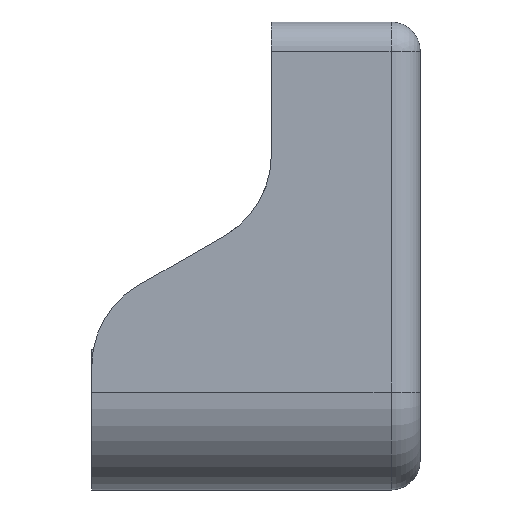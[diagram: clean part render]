
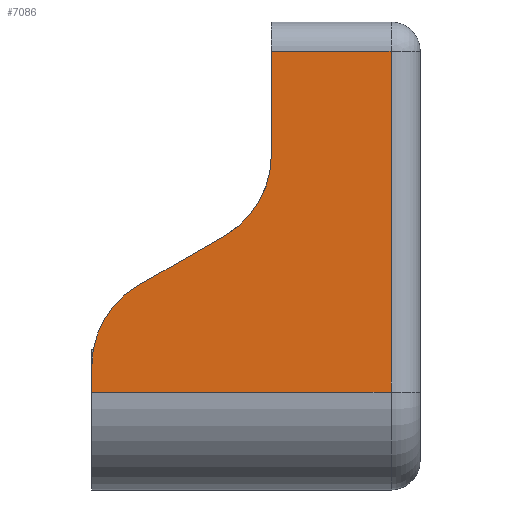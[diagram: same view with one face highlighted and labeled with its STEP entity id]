
A CAD part, left-side view. The second image highlights one B-rep face of the part: STEP entity #7086.
In plain terms, the highlighted planar face has unit normal (-1, 0, 0).
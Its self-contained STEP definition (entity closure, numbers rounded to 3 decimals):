
#9 = EDGE_CURVE ( 'NONE', #664, #5637, #3936, .T. ) ;
#40 = DIRECTION ( 'NONE',  ( 0., 0.866, -0.5 ) ) ;
#88 = LINE ( 'NONE', #6889, #4775 ) ;
#166 = ORIENTED_EDGE ( 'NONE', *, *, #549, .T. ) ;
#169 = CARTESIAN_POINT ( 'NONE',  ( -75., 15.825, 177.8 ) ) ;
#269 = VERTEX_POINT ( 'NONE', #4404 ) ;
#549 = EDGE_CURVE ( 'NONE', #5769, #4961, #3786, .T. ) ;
#664 = VERTEX_POINT ( 'NONE', #3509 ) ;
#798 = VECTOR ( 'NONE', #7280, 1000. ) ;
#1030 = DIRECTION ( 'NONE',  ( -1., 0., 0. ) ) ;
#1239 = CARTESIAN_POINT ( 'NONE',  ( -75., 178.2, -23.025 ) ) ;
#1602 = ORIENTED_EDGE ( 'NONE', *, *, #3099, .T. ) ;
#1631 = DIRECTION ( 'NONE',  ( 0., 0., 1. ) ) ;
#1965 = DIRECTION ( 'NONE',  ( -1., 0., 0. ) ) ;
#2411 = VERTEX_POINT ( 'NONE', #4628 ) ;
#2440 = ORIENTED_EDGE ( 'NONE', *, *, #4814, .T. ) ;
#2543 = VERTEX_POINT ( 'NONE', #1239 ) ;
#2716 = ORIENTED_EDGE ( 'NONE', *, *, #4242, .F. ) ;
#2809 = EDGE_CURVE ( 'NONE', #5637, #2411, #9111, .T. ) ;
#3099 = EDGE_CURVE ( 'NONE', #9263, #269, #5368, .T. ) ;
#3189 = DIRECTION ( 'NONE',  ( 0., 0., 1. ) ) ;
#3400 = CARTESIAN_POINT ( 'NONE',  ( -75., 0., -12.7 ) ) ;
#3509 = CARTESIAN_POINT ( 'NONE',  ( -75., 15.825, -23.025 ) ) ;
#3786 = CIRCLE ( 'NONE', #8458, 50. ) ;
#3936 = LINE ( 'NONE', #169, #5091 ) ;
#4104 = DIRECTION ( 'NONE',  ( 0., 0., 1. ) ) ;
#4242 = EDGE_CURVE ( 'NONE', #2543, #269, #8309, .T. ) ;
#4246 = LINE ( 'NONE', #8739, #798 ) ;
#4404 = CARTESIAN_POINT ( 'NONE',  ( -75., 178.2, -8.639 ) ) ;
#4628 = CARTESIAN_POINT ( 'NONE',  ( -75., 80.8, 161.975 ) ) ;
#4775 = VECTOR ( 'NONE', #40, 1000. ) ;
#4814 = EDGE_CURVE ( 'NONE', #4961, #9263, #88, .T. ) ;
#4961 = VERTEX_POINT ( 'NONE', #7900 ) ;
#5005 = DIRECTION ( 'NONE',  ( 0., 1., 0. ) ) ;
#5091 = VECTOR ( 'NONE', #3189, 1000. ) ;
#5188 = CARTESIAN_POINT ( 'NONE',  ( -75., 0., 161.975 ) ) ;
#5333 = DIRECTION ( 'NONE',  ( 0., -1., 0. ) ) ;
#5368 = CIRCLE ( 'NONE', #7618, 50. ) ;
#5419 = ORIENTED_EDGE ( 'NONE', *, *, #2809, .T. ) ;
#5637 = VERTEX_POINT ( 'NONE', #6212 ) ;
#5769 = VERTEX_POINT ( 'NONE', #9373 ) ;
#5997 = EDGE_CURVE ( 'NONE', #2543, #664, #8258, .T. ) ;
#6212 = CARTESIAN_POINT ( 'NONE',  ( -75., 15.825, 161.975 ) ) ;
#6395 = AXIS2_PLACEMENT_3D ( 'NONE', #3400, #1965, #5005 ) ;
#6453 = DIRECTION ( 'NONE',  ( 0., 0., 1. ) ) ;
#6519 = VECTOR ( 'NONE', #5333, 1000. ) ;
#6723 = ORIENTED_EDGE ( 'NONE', *, *, #5997, .T. ) ;
#6747 = CARTESIAN_POINT ( 'NONE',  ( -75., 0., -23.025 ) ) ;
#6889 = CARTESIAN_POINT ( 'NONE',  ( -75., 76.2, 79.118 ) ) ;
#7013 = EDGE_CURVE ( 'NONE', #2411, #5769, #4246, .T. ) ;
#7086 = ADVANCED_FACE ( 'NONE', ( #9394 ), #9593, .T. ) ;
#7196 = VECTOR ( 'NONE', #1631, 1000. ) ;
#7212 = EDGE_LOOP ( 'NONE', ( #2440, #1602, #2716, #6723, #7476, #5419, #8902, #166 ) ) ;
#7280 = DIRECTION ( 'NONE',  ( 0., 0., -1. ) ) ;
#7424 = CARTESIAN_POINT ( 'NONE',  ( -75., 153.2, 34.662 ) ) ;
#7476 = ORIENTED_EDGE ( 'NONE', *, *, #9, .T. ) ;
#7618 = AXIS2_PLACEMENT_3D ( 'NONE', #8757, #1030, #6453 ) ;
#7900 = CARTESIAN_POINT ( 'NONE',  ( -75., 105.8, 62.029 ) ) ;
#8045 = CARTESIAN_POINT ( 'NONE',  ( -75., 130.8, 105.33 ) ) ;
#8169 = DIRECTION ( 'NONE',  ( 0., 1., 0. ) ) ;
#8258 = LINE ( 'NONE', #6747, #6519 ) ;
#8309 = LINE ( 'NONE', #9925, #7196 ) ;
#8458 = AXIS2_PLACEMENT_3D ( 'NONE', #8045, #9454, #4104 ) ;
#8739 = CARTESIAN_POINT ( 'NONE',  ( -75., 80.8, 177.8 ) ) ;
#8757 = CARTESIAN_POINT ( 'NONE',  ( -75., 128.2, -8.639 ) ) ;
#8902 = ORIENTED_EDGE ( 'NONE', *, *, #7013, .T. ) ;
#9111 = LINE ( 'NONE', #5188, #9393 ) ;
#9263 = VERTEX_POINT ( 'NONE', #7424 ) ;
#9373 = CARTESIAN_POINT ( 'NONE',  ( -75., 80.8, 105.33 ) ) ;
#9393 = VECTOR ( 'NONE', #8169, 1000. ) ;
#9394 = FACE_OUTER_BOUND ( 'NONE', #7212, .T. ) ;
#9454 = DIRECTION ( 'NONE',  ( 1., 0., 0. ) ) ;
#9593 = PLANE ( 'NONE',  #6395 ) ;
#9925 = CARTESIAN_POINT ( 'NONE',  ( -75., 178.2, 50.8 ) ) ;
